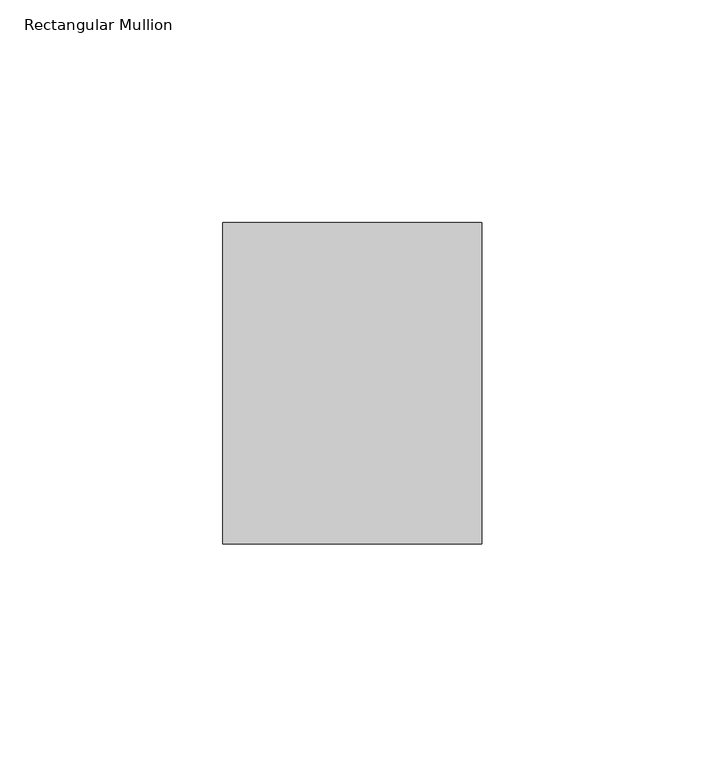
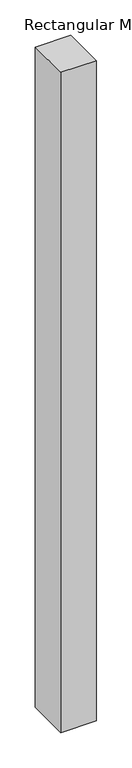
"""IFC4 building model written with IfcOpenShell, lengths in millimetres: member geometry, Rectangular Mullion : 22_IM_VNS_DET2_onder."""

from ifc_helpers import new_model, si_unit, frame, origin, place, context, project, spatial, polyline, outline, extrude, source, transform, mapped, element, save


def rectangular_mullion_d537f7af(model_context):
    return source(origin(), model_context, "Body", "SweptSolid", [
        extrude(outline(polyline([(0.0, 36.0), (0.0, -36.0), (-58.0, -36.0), (-58.0, 36.0), (0.0, 36.0)])), frame((0.0, 0.0, -1140.0), z_axis=(0.0, 0.0, 1.0), x_axis=(1.0, 0.0, 0.0)), (0.0, 0.0, 1.0), 1140.0),
    ])


if __name__ == "__main__":
    model = new_model("IFC4")
    model_context = context("Model", 3, world=origin())
    ifc_project = project(units=[si_unit("LENGTHUNIT", "METRE", prefix="MILLI")], contexts=[model_context])
    site = spatial("IfcSite", under=ifc_project)
    building = spatial("IfcBuilding", under=site)
    placement = place(None, origin())
    rectangular_mullion_shape = rectangular_mullion_d537f7af(model_context)
    element("IfcMember", 1, ObjectType="Rectangular Mullion : 22_IM_VNS_DET2_onder", at=placement, inside=building, context=model_context, shape_type="MappedRepresentation", body=[
        mapped(rectangular_mullion_shape, transform((0.0, 0.0, 0.0), x_axis=(1.0, 0.0, 0.0), y_axis=(0.0, 1.0, 0.0), z_axis=(0.0, 0.0, 1.0))),
    ])
    save(model, "model.ifc")
